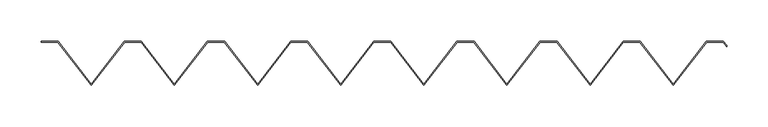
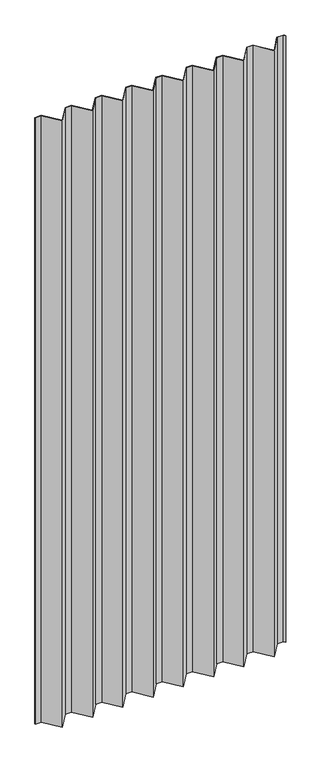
"""IFC4 building model written with IfcOpenShell, lengths in millimetres: plate geometry, HIANSA - H20.F09.008-CHAPA PERFILADA FACHADA VERTICAL - MT53MA8 - Panel de Muro Cortina : -."""

from ifc_helpers import new_model, si_unit, origin, origin_with_axes, place, context, project, spatial, polyline, outline, extrude, source, transform, mapped, element, save


def plate_c3072e43(model_context):
    return source(origin(), model_context, "Body", "SweptSolid", [
        extrude(outline(polyline([(412.1844985, 0.0), (416.0000002, -4.9585214), (416.0000002, -6.2703479), (411.7906563, -0.8), (391.7906563, -0.8), (351.5414327, -53.1067873), (311.2922091, -0.8), (291.2922091, -0.8), (251.0429855, -53.1067873), (210.7937619, -0.8), (190.7937619, -0.8), (150.5445383, -53.1067873), (110.2953147, -0.8), (90.2953147, -0.8), (50.0460911, -53.1067873), (9.7968675, -0.8), (-10.2031325, -0.8), (-50.4523561, -53.1067873), (-90.7015797, -0.8), (-110.7015797, -0.8), (-150.9508033, -53.1067873), (-191.2000269, -0.8), (-211.2000269, -0.8), (-251.4492505, -53.1067873), (-291.6984741, -0.8), (-311.6984741, -0.8), (-351.9476977, -53.1067873), (-392.1969213, -0.8), (-412.1969213, -0.8), (-412.1969213, 0.0), (-391.803079, 0.0), (-351.9476977, -51.7949608), (-312.0923163, 0.0), (-291.3046319, 0.0), (-251.4492505, -51.7949608), (-211.5938691, 0.0), (-190.8061847, 0.0), (-150.9508033, -51.7949608), (-111.0954219, 0.0), (-90.3077375, 0.0), (-50.4523561, -51.7949608), (-10.5969747, 0.0), (10.1907097, 0.0), (50.0460911, -51.7949608), (89.9014725, 0.0), (110.6891569, 0.0), (150.5445383, -51.7949608), (190.3999197, 0.0), (211.1876041, 0.0), (251.0429855, -51.7949608), (290.8983669, 0.0), (311.6860513, 0.0), (351.5414327, -51.7949608), (391.396814, 0.0), (412.1844985, 0.0)])), origin_with_axes(), (0.0, 0.0, 1.0), 2128.0),
    ])


if __name__ == "__main__":
    model = new_model("IFC4")
    model_context = context("Model", 3, world=origin())
    ifc_project = project(units=[si_unit("LENGTHUNIT", "METRE", prefix="MILLI")], contexts=[model_context])
    site = spatial("IfcSite", under=ifc_project)
    building = spatial("IfcBuilding", under=site)
    placement = place(None, origin())
    plate_shape = plate_c3072e43(model_context)
    element("IfcPlate", 1, ObjectType="HIANSA - H20.F09.008-CHAPA PERFILADA FACHADA VERTICAL - MT53MA8 - Panel de Muro Cortina : -", at=placement, inside=building, context=model_context, shape_type="MappedRepresentation", body=[
        mapped(plate_shape, transform((0.0, 0.0, 0.0), x_axis=(1.0, 0.0, 0.0), y_axis=(0.0, 1.0, 0.0), z_axis=(0.0, 0.0, 1.0))),
    ])
    save(model, "model.ifc")
